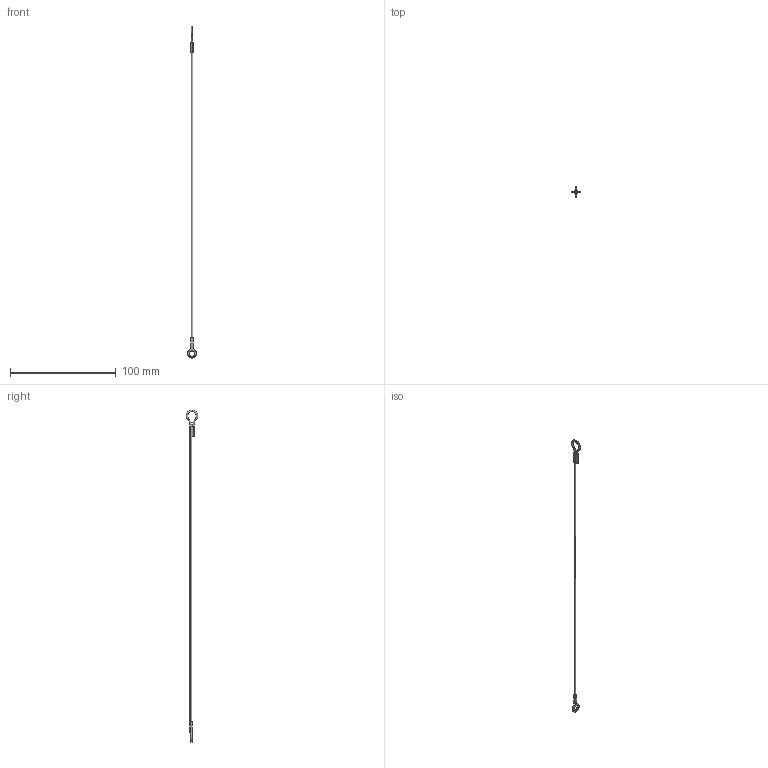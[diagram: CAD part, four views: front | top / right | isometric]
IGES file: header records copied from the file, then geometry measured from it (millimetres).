
Start section: SolidWorks IGES file using analytic representation for surfaces
Global section: file name: C:\Users\ianosborn\Desktop\LA1075_v2\LA1075_v2_20260320_IGES\LA1075.I04-304C1.igs; native system: SolidWorks 2019; preprocessor: SolidWorks 2019; author: IanOsborn; date: 260323.164245; units: millimetre
Bounding box: 8.38 x 11.16 x 314.58 mm (x, y, z)
Surface area: 1873.8 mm2 (no closed solid volume)
Topology: 0 solids, 0 shells, 30 faces, 404 edges, 404 vertices
Faces by surface type: bspline 20, revolution 10
